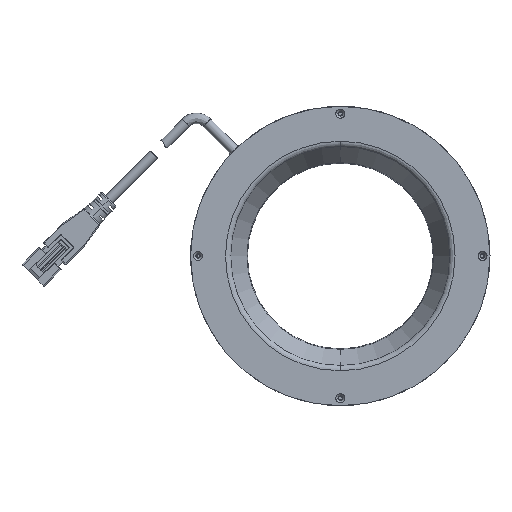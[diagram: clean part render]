
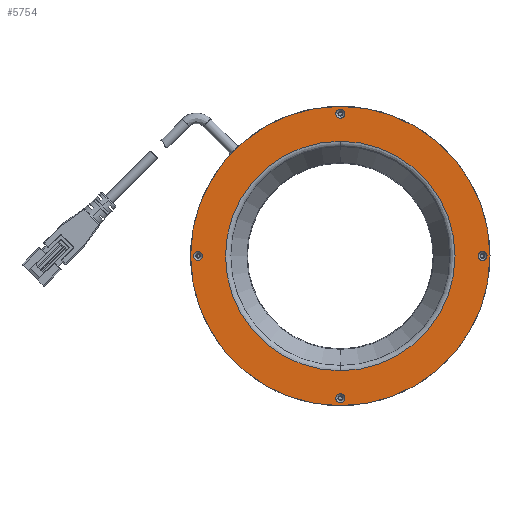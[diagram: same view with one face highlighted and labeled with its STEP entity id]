
A CAD part, front view. The second image highlights one B-rep face of the part: STEP entity #5754.
In plain terms, the highlighted planar face has unit normal (0, -1, 0).
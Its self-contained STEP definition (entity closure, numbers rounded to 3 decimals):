
#85 = CARTESIAN_POINT ( 'NONE',  ( 8.298, -13.831, 52.5 ) ) ;
#96 = CIRCLE ( 'NONE', #596, 1.5 ) ;
#118 = EDGE_LOOP ( 'NONE', ( #6419, #5508 ) ) ;
#215 = VERTEX_POINT ( 'NONE', #6922 ) ;
#293 = EDGE_CURVE ( 'NONE', #9346, #215, #3239, .T. ) ;
#302 = ORIENTED_EDGE ( 'NONE', *, *, #1188, .F. ) ;
#520 = CIRCLE ( 'NONE', #8085, 1.5 ) ;
#596 = AXIS2_PLACEMENT_3D ( 'NONE', #8401, #6708, #2058 ) ;
#669 = ORIENTED_EDGE ( 'NONE', *, *, #293, .F. ) ;
#687 = CARTESIAN_POINT ( 'NONE',  ( -39.202, -13.831, 100. ) ) ;
#734 = DIRECTION ( 'NONE',  ( 0., -1., 0. ) ) ;
#776 = ORIENTED_EDGE ( 'NONE', *, *, #6633, .F. ) ;
#793 = EDGE_CURVE ( 'NONE', #5010, #10043, #2228, .T. ) ;
#961 = DIRECTION ( 'NONE',  ( 0., 0., -1. ) ) ;
#1019 = CARTESIAN_POINT ( 'NONE',  ( 8.298, -13.831, 50. ) ) ;
#1072 = ORIENTED_EDGE ( 'NONE', *, *, #793, .T. ) ;
#1077 = AXIS2_PLACEMENT_3D ( 'NONE', #5494, #6264, #7039 ) ;
#1118 = DIRECTION ( 'NONE',  ( 0., 0., 1. ) ) ;
#1188 = EDGE_CURVE ( 'NONE', #5631, #6634, #7443, .T. ) ;
#1222 = CARTESIAN_POINT ( 'NONE',  ( 8.298, -13.831, 138.335 ) ) ;
#1239 = EDGE_CURVE ( 'NONE', #4233, #7342, #6606, .T. ) ;
#1250 = CIRCLE ( 'NONE', #8419, 1.5 ) ;
#1322 = EDGE_LOOP ( 'NONE', ( #9249, #669 ) ) ;
#1364 = DIRECTION ( 'NONE',  ( 0., 1., 0. ) ) ;
#1602 = AXIS2_PLACEMENT_3D ( 'NONE', #5960, #9633, #4188 ) ;
#1674 = FACE_BOUND ( 'NONE', #1322, .T. ) ;
#1747 = CARTESIAN_POINT ( 'NONE',  ( 55.798, -13.831, 98.5 ) ) ;
#1756 = CARTESIAN_POINT ( 'NONE',  ( 8.298, -13.831, 61.665 ) ) ;
#1801 = FACE_BOUND ( 'NONE', #118, .T. ) ;
#1861 = CIRCLE ( 'NONE', #2434, 1.5 ) ;
#2020 = DIRECTION ( 'NONE',  ( 0., 0., -1. ) ) ;
#2044 = AXIS2_PLACEMENT_3D ( 'NONE', #2423, #734, #6211 ) ;
#2058 = DIRECTION ( 'NONE',  ( 0., 0., 1. ) ) ;
#2228 = CIRCLE ( 'NONE', #7693, 38.335 ) ;
#2337 = DIRECTION ( 'NONE',  ( 0., 0., -1. ) ) ;
#2423 = CARTESIAN_POINT ( 'NONE',  ( 8.298, -13.831, 147.5 ) ) ;
#2434 = AXIS2_PLACEMENT_3D ( 'NONE', #85, #5567, #7786 ) ;
#2526 = VERTEX_POINT ( 'NONE', #9602 ) ;
#2678 = PLANE ( 'NONE',  #8330 ) ;
#2707 = DIRECTION ( 'NONE',  ( 0., -1., 0. ) ) ;
#2786 = EDGE_CURVE ( 'NONE', #215, #9346, #96, .T. ) ;
#2935 = CIRCLE ( 'NONE', #1077, 1.5 ) ;
#3074 = CARTESIAN_POINT ( 'NONE',  ( -39.202, -13.831, 100. ) ) ;
#3182 = CARTESIAN_POINT ( 'NONE',  ( 8.298, -13.831, 100. ) ) ;
#3194 = VERTEX_POINT ( 'NONE', #1747 ) ;
#3205 = CARTESIAN_POINT ( 'NONE',  ( 8.298, -13.831, 54. ) ) ;
#3216 = EDGE_LOOP ( 'NONE', ( #302, #9147 ) ) ;
#3239 = CIRCLE ( 'NONE', #2044, 1.5 ) ;
#3259 = EDGE_LOOP ( 'NONE', ( #1072, #8480 ) ) ;
#3262 = EDGE_CURVE ( 'NONE', #6634, #5631, #3648, .T. ) ;
#3486 = CARTESIAN_POINT ( 'NONE',  ( 8.298, -13.831, 100. ) ) ;
#3487 = DIRECTION ( 'NONE',  ( 0., 0., 1. ) ) ;
#3517 = CARTESIAN_POINT ( 'NONE',  ( 55.798, -13.831, 100. ) ) ;
#3529 = EDGE_CURVE ( 'NONE', #5595, #2526, #2935, .T. ) ;
#3648 = CIRCLE ( 'NONE', #1602, 50. ) ;
#3972 = FACE_OUTER_BOUND ( 'NONE', #3216, .T. ) ;
#4102 = CARTESIAN_POINT ( 'NONE',  ( 55.798, -13.831, 100. ) ) ;
#4188 = DIRECTION ( 'NONE',  ( 0., 0., -1. ) ) ;
#4233 = VERTEX_POINT ( 'NONE', #7940 ) ;
#4254 = EDGE_LOOP ( 'NONE', ( #776, #8605 ) ) ;
#4666 = ORIENTED_EDGE ( 'NONE', *, *, #8138, .F. ) ;
#4765 = ORIENTED_EDGE ( 'NONE', *, *, #1239, .F. ) ;
#4849 = DIRECTION ( 'NONE',  ( 0., -1., 0. ) ) ;
#5010 = VERTEX_POINT ( 'NONE', #1756 ) ;
#5095 = VERTEX_POINT ( 'NONE', #7327 ) ;
#5212 = FACE_BOUND ( 'NONE', #8148, .T. ) ;
#5402 = DIRECTION ( 'NONE',  ( 0., -1., 0. ) ) ;
#5494 = CARTESIAN_POINT ( 'NONE',  ( 8.298, -13.831, 52.5 ) ) ;
#5508 = ORIENTED_EDGE ( 'NONE', *, *, #9753, .F. ) ;
#5567 = DIRECTION ( 'NONE',  ( 0., -1., 0. ) ) ;
#5595 = VERTEX_POINT ( 'NONE', #3205 ) ;
#5631 = VERTEX_POINT ( 'NONE', #1019 ) ;
#5741 = CARTESIAN_POINT ( 'NONE',  ( 8.298, -13.831, 100. ) ) ;
#5754 = ADVANCED_FACE ( 'NONE', ( #7612, #1674, #5212, #1801, #6782, #3972 ), #2678, .T. ) ;
#5840 = EDGE_CURVE ( 'NONE', #10043, #5010, #8984, .T. ) ;
#5960 = CARTESIAN_POINT ( 'NONE',  ( 8.298, -13.831, 100. ) ) ;
#6211 = DIRECTION ( 'NONE',  ( 0., 0., 1. ) ) ;
#6264 = DIRECTION ( 'NONE',  ( 0., -1., 0. ) ) ;
#6347 = CARTESIAN_POINT ( 'NONE',  ( 8.298, -13.831, 100. ) ) ;
#6418 = CARTESIAN_POINT ( 'NONE',  ( 8.298, -13.831, 146. ) ) ;
#6419 = ORIENTED_EDGE ( 'NONE', *, *, #3529, .F. ) ;
#6606 = CIRCLE ( 'NONE', #7511, 1.5 ) ;
#6633 = EDGE_CURVE ( 'NONE', #5095, #3194, #6889, .T. ) ;
#6634 = VERTEX_POINT ( 'NONE', #7418 ) ;
#6708 = DIRECTION ( 'NONE',  ( 0., -1., 0. ) ) ;
#6782 = FACE_BOUND ( 'NONE', #3259, .T. ) ;
#6889 = CIRCLE ( 'NONE', #9975, 1.5 ) ;
#6922 = CARTESIAN_POINT ( 'NONE',  ( 8.298, -13.831, 149. ) ) ;
#6962 = DIRECTION ( 'NONE',  ( 0., 1., 0. ) ) ;
#7039 = DIRECTION ( 'NONE',  ( 0., 0., 1. ) ) ;
#7096 = DIRECTION ( 'NONE',  ( 0., 0., 1. ) ) ;
#7327 = CARTESIAN_POINT ( 'NONE',  ( 55.798, -13.831, 101.5 ) ) ;
#7342 = VERTEX_POINT ( 'NONE', #8246 ) ;
#7418 = CARTESIAN_POINT ( 'NONE',  ( 8.298, -13.831, 150. ) ) ;
#7443 = CIRCLE ( 'NONE', #8026, 50. ) ;
#7511 = AXIS2_PLACEMENT_3D ( 'NONE', #687, #8665, #7096 ) ;
#7612 = FACE_BOUND ( 'NONE', #4254, .T. ) ;
#7693 = AXIS2_PLACEMENT_3D ( 'NONE', #6347, #7995, #961 ) ;
#7786 = DIRECTION ( 'NONE',  ( 0., 0., 1. ) ) ;
#7799 = AXIS2_PLACEMENT_3D ( 'NONE', #5741, #1364, #2020 ) ;
#7940 = CARTESIAN_POINT ( 'NONE',  ( -39.202, -13.831, 101.5 ) ) ;
#7990 = DIRECTION ( 'NONE',  ( 0., 0., 1. ) ) ;
#7995 = DIRECTION ( 'NONE',  ( 0., 1., 0. ) ) ;
#8026 = AXIS2_PLACEMENT_3D ( 'NONE', #3182, #6962, #2337 ) ;
#8085 = AXIS2_PLACEMENT_3D ( 'NONE', #3074, #5402, #10009 ) ;
#8138 = EDGE_CURVE ( 'NONE', #7342, #4233, #520, .T. ) ;
#8148 = EDGE_LOOP ( 'NONE', ( #4765, #4666 ) ) ;
#8246 = CARTESIAN_POINT ( 'NONE',  ( -39.202, -13.831, 98.5 ) ) ;
#8330 = AXIS2_PLACEMENT_3D ( 'NONE', #3486, #2707, #1118 ) ;
#8401 = CARTESIAN_POINT ( 'NONE',  ( 8.298, -13.831, 147.5 ) ) ;
#8419 = AXIS2_PLACEMENT_3D ( 'NONE', #4102, #4849, #7990 ) ;
#8480 = ORIENTED_EDGE ( 'NONE', *, *, #5840, .T. ) ;
#8605 = ORIENTED_EDGE ( 'NONE', *, *, #9281, .F. ) ;
#8665 = DIRECTION ( 'NONE',  ( 0., -1., 0. ) ) ;
#8984 = CIRCLE ( 'NONE', #7799, 38.335 ) ;
#9147 = ORIENTED_EDGE ( 'NONE', *, *, #3262, .F. ) ;
#9249 = ORIENTED_EDGE ( 'NONE', *, *, #2786, .F. ) ;
#9281 = EDGE_CURVE ( 'NONE', #3194, #5095, #1250, .T. ) ;
#9346 = VERTEX_POINT ( 'NONE', #6418 ) ;
#9602 = CARTESIAN_POINT ( 'NONE',  ( 8.298, -13.831, 51. ) ) ;
#9633 = DIRECTION ( 'NONE',  ( 0., 1., 0. ) ) ;
#9753 = EDGE_CURVE ( 'NONE', #2526, #5595, #1861, .T. ) ;
#9805 = DIRECTION ( 'NONE',  ( 0., -1., 0. ) ) ;
#9975 = AXIS2_PLACEMENT_3D ( 'NONE', #3517, #9805, #3487 ) ;
#10009 = DIRECTION ( 'NONE',  ( 0., 0., 1. ) ) ;
#10043 = VERTEX_POINT ( 'NONE', #1222 ) ;
